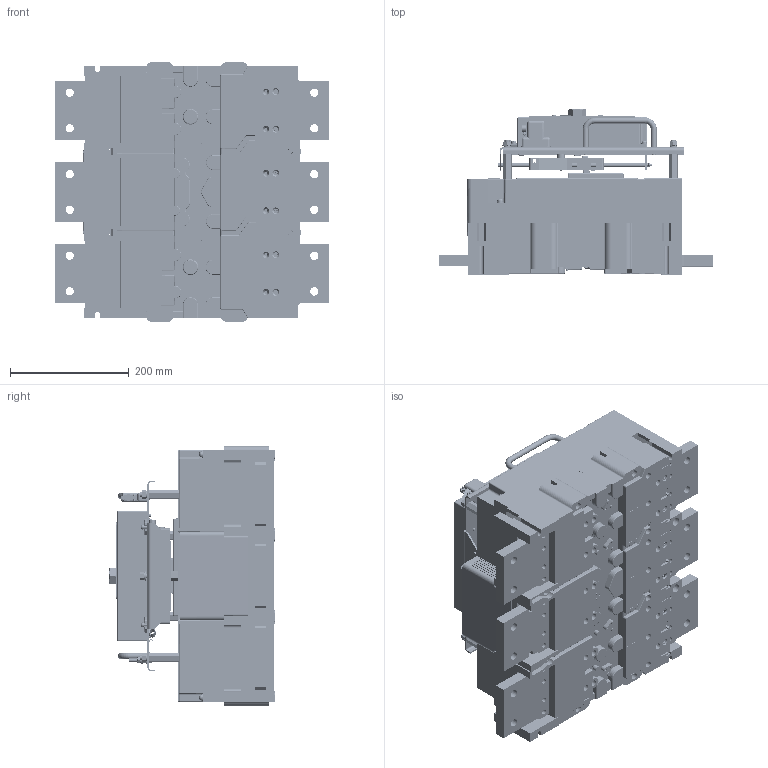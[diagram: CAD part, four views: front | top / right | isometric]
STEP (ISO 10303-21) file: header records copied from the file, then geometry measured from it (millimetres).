
FILE_DESCRIPTION (( 'STEP AP203' ), '1' );
FILE_NAME ('ÂÀ55-43 ñ ÝÌÏ 1600 À.STEP', '2016-09-29T08:35:30', ( 'admin' ), ( '' ), 'SwSTEP 2.0', 'SolidWorks 2012', '' );
FILE_SCHEMA (( 'CONFIG_CONTROL_DESIGN' ));
Products named in the file (1): ÂÀ55-43 ñ ÝÌÏ 1600 À
Bounding box: 462.5 x 279.15 x 438 mm (x, y, z)
Volume: 22337074.9 mm3; surface area: 2747097.1 mm2
Topology: 305 solids, 305 shells, 14943 faces, 38191 edges, 24272 vertices
Faces by surface type: plane 7998, cylinder 3905, bspline 1731, cone 926, torus 297, sphere 86
Entity records: 515816 total; most frequent: CARTESIAN_POINT 162627, ORIENTED_EDGE 76198, DIRECTION 68170, EDGE_CURVE 38099, LINE 24742, VECTOR 24742, VERTEX_POINT 24272, AXIS2_PLACEMENT_3D 21714
